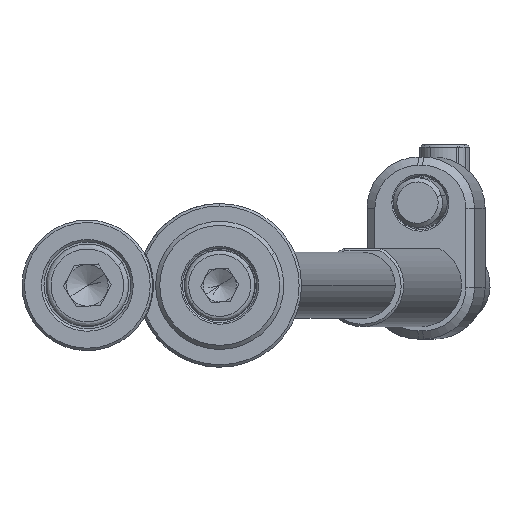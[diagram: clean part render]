
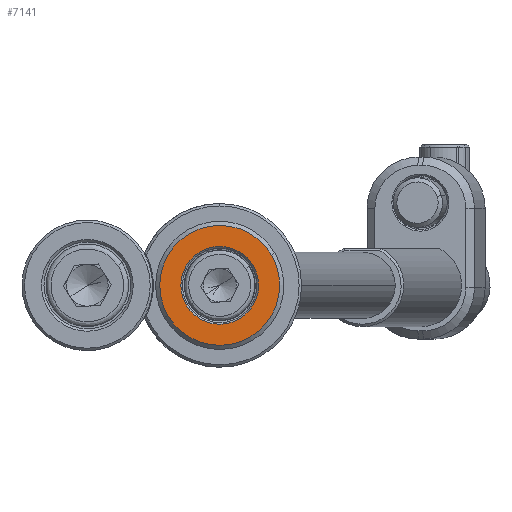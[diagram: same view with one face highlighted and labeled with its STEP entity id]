
A CAD part, front view. The second image highlights one B-rep face of the part: STEP entity #7141.
In plain terms, the highlighted planar face has unit normal (0, -1, 0).
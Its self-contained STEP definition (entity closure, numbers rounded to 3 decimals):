
#1353 = AXIS2_PLACEMENT_3D ( 'NONE', #2623, #12746, #1767 ) ;
#1767 = DIRECTION ( 'NONE',  ( -0.865, 0., -0.503 ) ) ;
#1819 = AXIS2_PLACEMENT_3D ( 'NONE', #12489, #8118, #7206 ) ;
#1839 = CARTESIAN_POINT ( 'NONE',  ( -4.063, -4., -2.362 ) ) ;
#2008 = EDGE_LOOP ( 'NONE', ( #3534, #11371 ) ) ;
#2095 = PLANE ( 'NONE',  #4789 ) ;
#2115 = CARTESIAN_POINT ( 'NONE',  ( 4.063, -4., 2.362 ) ) ;
#2623 = CARTESIAN_POINT ( 'NONE',  ( 0., -4., 0. ) ) ;
#3196 = CIRCLE ( 'NONE', #1353, 7.25 ) ;
#3239 = DIRECTION ( 'NONE',  ( -0.865, 0., -0.503 ) ) ;
#3534 = ORIENTED_EDGE ( 'NONE', *, *, #10859, .T. ) ;
#3987 = CARTESIAN_POINT ( 'NONE',  ( 6.268, -4., 3.643 ) ) ;
#4372 = DIRECTION ( 'NONE',  ( 0., 1., 0. ) ) ;
#4755 = EDGE_LOOP ( 'NONE', ( #4843, #13983 ) ) ;
#4789 = AXIS2_PLACEMENT_3D ( 'NONE', #8719, #4372, #3239 ) ;
#4843 = ORIENTED_EDGE ( 'NONE', *, *, #14003, .T. ) ;
#4988 = AXIS2_PLACEMENT_3D ( 'NONE', #7496, #10828, #11738 ) ;
#4990 = EDGE_CURVE ( 'NONE', #13492, #12717, #3196, .T. ) ;
#5099 = DIRECTION ( 'NONE',  ( 0., 1., 0. ) ) ;
#5598 = FACE_BOUND ( 'NONE', #4755, .T. ) ;
#6430 = CIRCLE ( 'NONE', #1819, 7.25 ) ;
#6603 = VERTEX_POINT ( 'NONE', #2115 ) ;
#6632 = FACE_OUTER_BOUND ( 'NONE', #2008, .T. ) ;
#7141 = ADVANCED_FACE ( 'NONE', ( #5598, #6632 ), #2095, .F. ) ;
#7193 = CIRCLE ( 'NONE', #8093, 4.7 ) ;
#7206 = DIRECTION ( 'NONE',  ( -0.865, 0., -0.503 ) ) ;
#7496 = CARTESIAN_POINT ( 'NONE',  ( 0., -4., 0. ) ) ;
#7977 = EDGE_CURVE ( 'NONE', #10020, #6603, #8202, .T. ) ;
#8093 = AXIS2_PLACEMENT_3D ( 'NONE', #14075, #5099, #11872 ) ;
#8118 = DIRECTION ( 'NONE',  ( 0., -1., 0. ) ) ;
#8202 = CIRCLE ( 'NONE', #4988, 4.7 ) ;
#8719 = CARTESIAN_POINT ( 'NONE',  ( 2.261, -4., -3.891 ) ) ;
#10020 = VERTEX_POINT ( 'NONE', #1839 ) ;
#10565 = CARTESIAN_POINT ( 'NONE',  ( -6.268, -4., -3.643 ) ) ;
#10828 = DIRECTION ( 'NONE',  ( 0., 1., 0. ) ) ;
#10859 = EDGE_CURVE ( 'NONE', #12717, #13492, #6430, .T. ) ;
#11371 = ORIENTED_EDGE ( 'NONE', *, *, #4990, .T. ) ;
#11738 = DIRECTION ( 'NONE',  ( -0.865, 0., -0.503 ) ) ;
#11872 = DIRECTION ( 'NONE',  ( -0.865, 0., -0.503 ) ) ;
#12489 = CARTESIAN_POINT ( 'NONE',  ( 0., -4., 0. ) ) ;
#12717 = VERTEX_POINT ( 'NONE', #10565 ) ;
#12746 = DIRECTION ( 'NONE',  ( 0., -1., 0. ) ) ;
#13492 = VERTEX_POINT ( 'NONE', #3987 ) ;
#13983 = ORIENTED_EDGE ( 'NONE', *, *, #7977, .T. ) ;
#14003 = EDGE_CURVE ( 'NONE', #6603, #10020, #7193, .T. ) ;
#14075 = CARTESIAN_POINT ( 'NONE',  ( 0., -4., 0. ) ) ;
